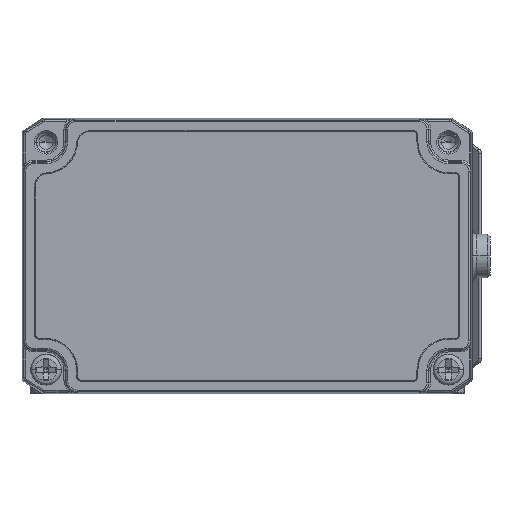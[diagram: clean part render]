
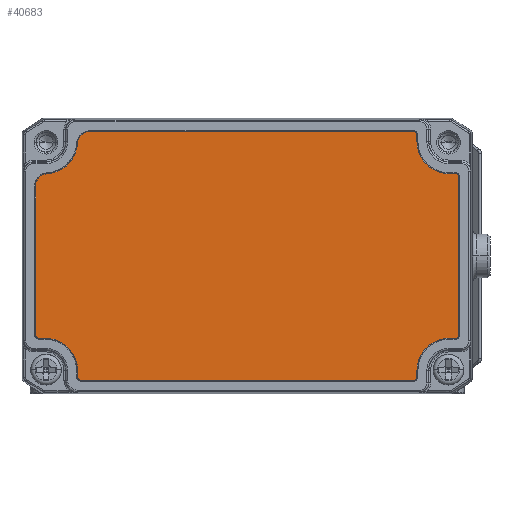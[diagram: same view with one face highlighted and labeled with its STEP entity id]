
A CAD part, front view. The second image highlights one B-rep face of the part: STEP entity #40683.
In plain terms, the highlighted planar face has unit normal (0, -1, 0).
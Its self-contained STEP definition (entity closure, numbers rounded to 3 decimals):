
#11311=DIRECTION('',(0.,0.,1.));
#11312=VECTOR('',#11311,0.7);
#11313=CARTESIAN_POINT('',(19.4,0.1,13.1));
#11314=LINE('',#11313,#11312);
#11335=DIRECTION('',(-1.,0.,0.));
#11336=VECTOR('',#11335,0.7);
#11337=CARTESIAN_POINT('',(23.8,0.1,9.4));
#11338=LINE('',#11337,#11336);
#11541=DIRECTION('',(1.,0.,0.));
#11542=VECTOR('',#11541,0.7);
#11543=CARTESIAN_POINT('',(23.1,0.1,-9.4));
#11544=LINE('',#11543,#11542);
#11565=DIRECTION('',(0.,0.,1.));
#11566=VECTOR('',#11565,0.7);
#11567=CARTESIAN_POINT('',(19.4,0.1,-13.8));
#11568=LINE('',#11567,#11566);
#11765=DIRECTION('',(0.,0.,-1.));
#11766=VECTOR('',#11765,0.7);
#11767=CARTESIAN_POINT('',(-19.4,0.1,-13.1));
#11768=LINE('',#11767,#11766);
#11789=DIRECTION('',(1.,0.,0.));
#11790=VECTOR('',#11789,0.7);
#11791=CARTESIAN_POINT('',(-23.8,0.1,-9.4));
#11792=LINE('',#11791,#11790);
#11805=DIRECTION('',(0.,0.,-1.));
#11806=VECTOR('',#11805,17.009);
#11807=CARTESIAN_POINT('',(-24.2,0.1,8.009));
#11808=LINE('',#11807,#11806);
#11809=CARTESIAN_POINT('',(19.,0.1,13.8));
#11810=DIRECTION('',(0.,1.,0.));
#11811=DIRECTION('',(0.,0.,1.));
#11812=AXIS2_PLACEMENT_3D('',#11809,#11810,#11811);
#11814=CARTESIAN_POINT('',(23.1,0.1,13.1));
#11815=DIRECTION('',(0.,-1.,0.));
#11816=DIRECTION('',(-1.,0.,0.));
#11817=AXIS2_PLACEMENT_3D('',#11814,#11815,#11816);
#11819=CARTESIAN_POINT('',(23.8,0.1,9.));
#11820=DIRECTION('',(0.,1.,0.));
#11821=DIRECTION('',(0.,0.,1.));
#11822=AXIS2_PLACEMENT_3D('',#11819,#11820,#11821);
#11824=CARTESIAN_POINT('',(23.8,0.1,-9.));
#11825=DIRECTION('',(0.,1.,0.));
#11826=DIRECTION('',(1.,0.,0.));
#11827=AXIS2_PLACEMENT_3D('',#11824,#11825,#11826);
#11829=CARTESIAN_POINT('',(23.1,0.1,-13.1));
#11830=DIRECTION('',(0.,-1.,0.));
#11831=DIRECTION('',(0.,0.,1.));
#11832=AXIS2_PLACEMENT_3D('',#11829,#11830,#11831);
#11834=CARTESIAN_POINT('',(19.,0.1,-13.8));
#11835=DIRECTION('',(0.,1.,0.));
#11836=DIRECTION('',(1.,0.,0.));
#11837=AXIS2_PLACEMENT_3D('',#11834,#11835,#11836);
#11839=CARTESIAN_POINT('',(-19.,0.1,-13.8));
#11840=DIRECTION('',(0.,1.,0.));
#11841=DIRECTION('',(0.,0.,-1.));
#11842=AXIS2_PLACEMENT_3D('',#11839,#11840,#11841);
#11844=CARTESIAN_POINT('',(-23.1,0.1,-13.1));
#11845=DIRECTION('',(0.,-1.,0.));
#11846=DIRECTION('',(1.,0.,0.));
#11847=AXIS2_PLACEMENT_3D('',#11844,#11845,#11846);
#11849=CARTESIAN_POINT('',(-23.8,0.1,-9.));
#11850=DIRECTION('',(0.,1.,0.));
#11851=DIRECTION('',(0.,0.,-1.));
#11852=AXIS2_PLACEMENT_3D('',#11849,#11850,#11851);
#11854=CARTESIAN_POINT('',(-22.8,0.1,8.009));
#11855=DIRECTION('',(0.,1.,0.));
#11856=DIRECTION('',(-1.,0.,0.));
#11857=AXIS2_PLACEMENT_3D('',#11854,#11855,#11856);
#11859=CARTESIAN_POINT('',(-23.1,0.1,13.1));
#11860=DIRECTION('',(0.,-1.,0.));
#11861=DIRECTION('',(0.059,0.,-0.998));
#11862=AXIS2_PLACEMENT_3D('',#11859,#11860,#11861);
#11864=CARTESIAN_POINT('',(-18.009,0.1,12.8));
#11865=DIRECTION('',(0.,1.,0.));
#11866=DIRECTION('',(-0.998,0.,0.059));
#11867=AXIS2_PLACEMENT_3D('',#11864,#11865,#11866);
#11873=DIRECTION('',(-1.,0.,0.));
#11874=VECTOR('',#11873,37.009);
#11875=CARTESIAN_POINT('',(19.,0.1,14.2));
#11876=LINE('',#11875,#11874);
#11893=DIRECTION('',(0.,0.,1.));
#11894=VECTOR('',#11893,18.);
#11895=CARTESIAN_POINT('',(24.2,0.1,-9.));
#11896=LINE('',#11895,#11894);
#11921=DIRECTION('',(1.,0.,0.));
#11922=VECTOR('',#11921,38.);
#11923=CARTESIAN_POINT('',(-19.,0.1,-14.2));
#11924=LINE('',#11923,#11922);
#20707=CARTESIAN_POINT('',(19.4,0.1,13.1));
#20708=VERTEX_POINT('',#20707);
#20709=CARTESIAN_POINT('',(19.4,0.1,13.8));
#20710=VERTEX_POINT('',#20709);
#20711=CARTESIAN_POINT('',(19.,0.1,14.2));
#20712=CARTESIAN_POINT('',(-18.009,0.1,14.2));
#20713=VERTEX_POINT('',#20711);
#20714=VERTEX_POINT('',#20712);
#20715=CARTESIAN_POINT('',(23.1,0.1,9.4));
#20716=VERTEX_POINT('',#20715);
#20717=CARTESIAN_POINT('',(23.8,0.1,9.4));
#20718=VERTEX_POINT('',#20717);
#20719=CARTESIAN_POINT('',(24.2,0.1,9.));
#20720=VERTEX_POINT('',#20719);
#20721=CARTESIAN_POINT('',(24.2,0.1,-9.));
#20722=VERTEX_POINT('',#20721);
#20723=CARTESIAN_POINT('',(23.8,0.1,-9.4));
#20724=VERTEX_POINT('',#20723);
#20725=CARTESIAN_POINT('',(23.1,0.1,-9.4));
#20726=VERTEX_POINT('',#20725);
#20727=CARTESIAN_POINT('',(19.4,0.1,-13.1));
#20728=VERTEX_POINT('',#20727);
#20729=CARTESIAN_POINT('',(19.4,0.1,-13.8));
#20730=VERTEX_POINT('',#20729);
#20731=CARTESIAN_POINT('',(19.,0.1,-14.2));
#20732=VERTEX_POINT('',#20731);
#20733=CARTESIAN_POINT('',(-19.,0.1,-14.2));
#20734=VERTEX_POINT('',#20733);
#20735=CARTESIAN_POINT('',(-19.4,0.1,-13.8));
#20736=VERTEX_POINT('',#20735);
#20737=CARTESIAN_POINT('',(-19.4,0.1,-13.1));
#20738=VERTEX_POINT('',#20737);
#20739=CARTESIAN_POINT('',(-23.1,0.1,-9.4));
#20740=VERTEX_POINT('',#20739);
#20741=CARTESIAN_POINT('',(-23.8,0.1,-9.4));
#20742=VERTEX_POINT('',#20741);
#20743=CARTESIAN_POINT('',(-24.2,0.1,-9.));
#20744=VERTEX_POINT('',#20743);
#20745=CARTESIAN_POINT('',(-24.2,0.1,8.009));
#20746=VERTEX_POINT('',#20745);
#20747=CARTESIAN_POINT('',(-22.882,0.1,9.406));
#20748=VERTEX_POINT('',#20747);
#20749=CARTESIAN_POINT('',(-19.406,0.1,12.882));
#20750=VERTEX_POINT('',#20749);
#40646=CARTESIAN_POINT('',(0.,0.1,0.));
#40647=DIRECTION('',(0.,-1.,0.));
#40648=DIRECTION('',(1.,0.,0.));
#40649=AXIS2_PLACEMENT_3D('',#40646,#40647,#40648);
#40650=PLANE('',#40649);
#40652=ORIENTED_EDGE('',*,*,#40651,.F.);
#40654=ORIENTED_EDGE('',*,*,#40653,.T.);
#40655=ORIENTED_EDGE('',*,*,#40032,.F.);
#40656=ORIENTED_EDGE('',*,*,#40048,.T.);
#40657=ORIENTED_EDGE('',*,*,#40064,.F.);
#40659=ORIENTED_EDGE('',*,*,#40658,.T.);
#40661=ORIENTED_EDGE('',*,*,#40660,.F.);
#40663=ORIENTED_EDGE('',*,*,#40662,.T.);
#40664=ORIENTED_EDGE('',*,*,#40306,.F.);
#40665=ORIENTED_EDGE('',*,*,#40322,.T.);
#40666=ORIENTED_EDGE('',*,*,#40338,.F.);
#40668=ORIENTED_EDGE('',*,*,#40667,.T.);
#40670=ORIENTED_EDGE('',*,*,#40669,.F.);
#40672=ORIENTED_EDGE('',*,*,#40671,.T.);
#40673=ORIENTED_EDGE('',*,*,#40582,.F.);
#40674=ORIENTED_EDGE('',*,*,#40598,.T.);
#40675=ORIENTED_EDGE('',*,*,#40613,.F.);
#40676=ORIENTED_EDGE('',*,*,#40626,.T.);
#40677=ORIENTED_EDGE('',*,*,#40640,.F.);
#40678=ORIENTED_EDGE('',*,*,#39792,.T.);
#40679=ORIENTED_EDGE('',*,*,#39808,.T.);
#40680=ORIENTED_EDGE('',*,*,#39824,.T.);
#40681=EDGE_LOOP('',(#40652,#40654,#40655,#40656,#40657,#40659,#40661,#40663,
#40664,#40665,#40666,#40668,#40670,#40672,#40673,#40674,#40675,#40676,#40677,
#40678,#40679,#40680));
#40682=FACE_OUTER_BOUND('',#40681,.F.);
#40683=ADVANCED_FACE('',(#40682),#40650,.T.);
#11813=CIRCLE('',#11812,0.4);
#11818=CIRCLE('',#11817,3.7);
#11823=CIRCLE('',#11822,0.4);
#11828=CIRCLE('',#11827,0.4);
#11833=CIRCLE('',#11832,3.7);
#11838=CIRCLE('',#11837,0.4);
#11843=CIRCLE('',#11842,0.4);
#11848=CIRCLE('',#11847,3.7);
#11853=CIRCLE('',#11852,0.4);
#11858=CIRCLE('',#11857,1.4);
#11863=CIRCLE('',#11862,3.7);
#11868=CIRCLE('',#11867,1.4);
#39792=EDGE_CURVE('',#20746,#20748,#11858,.T.);
#39808=EDGE_CURVE('',#20748,#20750,#11863,.T.);
#39824=EDGE_CURVE('',#20750,#20714,#11868,.T.);
#40032=EDGE_CURVE('',#20708,#20710,#11314,.T.);
#40048=EDGE_CURVE('',#20708,#20716,#11818,.T.);
#40064=EDGE_CURVE('',#20718,#20716,#11338,.T.);
#40306=EDGE_CURVE('',#20726,#20724,#11544,.T.);
#40322=EDGE_CURVE('',#20726,#20728,#11833,.T.);
#40338=EDGE_CURVE('',#20730,#20728,#11568,.T.);
#40582=EDGE_CURVE('',#20738,#20736,#11768,.T.);
#40598=EDGE_CURVE('',#20738,#20740,#11848,.T.);
#40613=EDGE_CURVE('',#20742,#20740,#11792,.T.);
#40626=EDGE_CURVE('',#20742,#20744,#11853,.T.);
#40640=EDGE_CURVE('',#20746,#20744,#11808,.T.);
#40651=EDGE_CURVE('',#20713,#20714,#11876,.T.);
#40653=EDGE_CURVE('',#20713,#20710,#11813,.T.);
#40658=EDGE_CURVE('',#20718,#20720,#11823,.T.);
#40660=EDGE_CURVE('',#20722,#20720,#11896,.T.);
#40662=EDGE_CURVE('',#20722,#20724,#11828,.T.);
#40667=EDGE_CURVE('',#20730,#20732,#11838,.T.);
#40669=EDGE_CURVE('',#20734,#20732,#11924,.T.);
#40671=EDGE_CURVE('',#20734,#20736,#11843,.T.);
